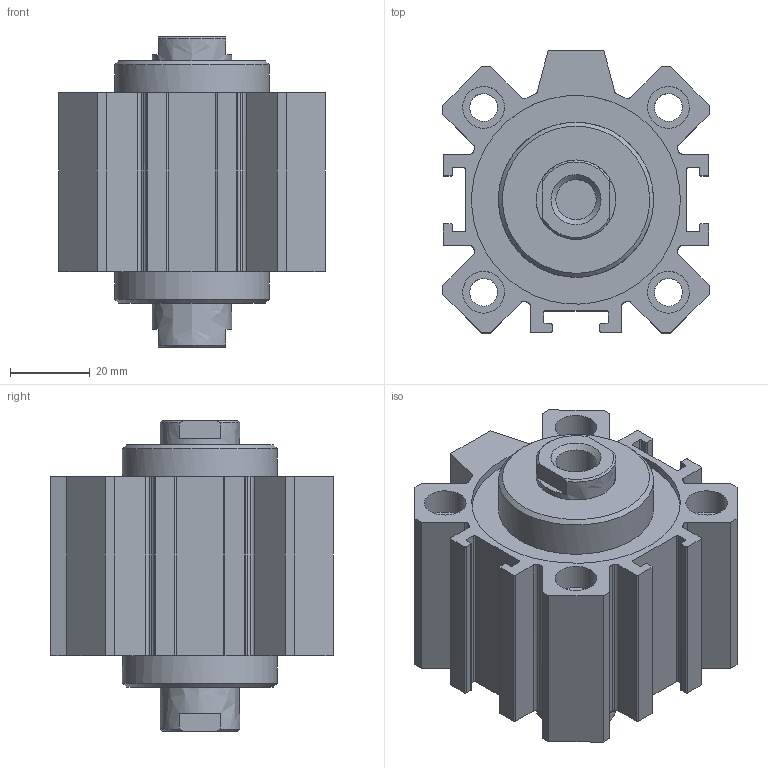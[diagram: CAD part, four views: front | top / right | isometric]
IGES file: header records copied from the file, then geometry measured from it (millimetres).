
Global section: file name: 1514_50_0005; native system: Autodesk Inventor 2014; preprocessor: unknown; author: A. Manieri; date: 20160824.134132; units: millimetre
Bounding box: 67 x 71 x 78 mm (x, y, z)
Volume: 164944.4 mm3; surface area: 51780.6 mm2
Topology: 2 solids, 2 shells, 178 faces, 482 edges, 328 vertices
Faces by surface type: bspline 178
